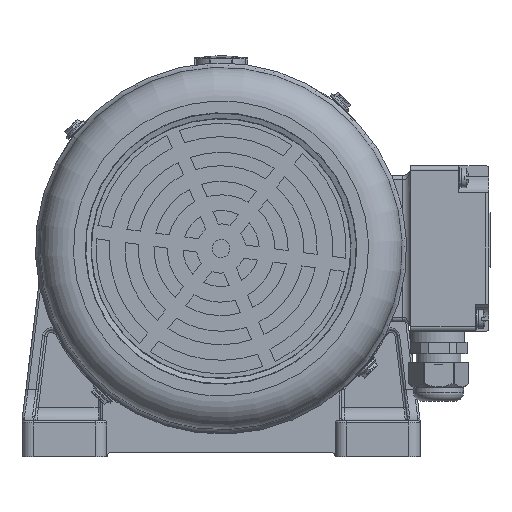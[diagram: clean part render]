
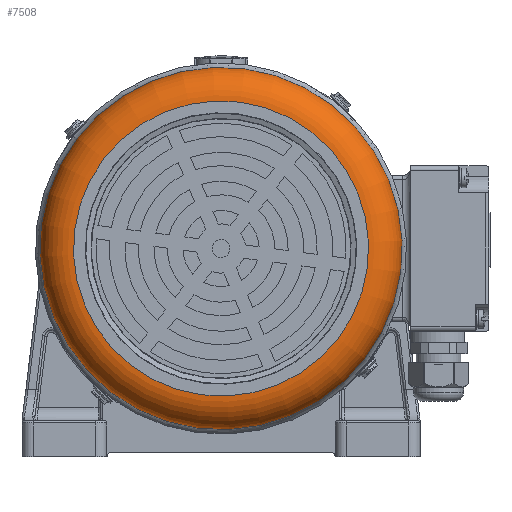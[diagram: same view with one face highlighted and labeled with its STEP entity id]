
A CAD part, left-side view. The second image highlights one B-rep face of the part: STEP entity #7508.
In plain terms, the highlighted toroidal (fillet/blend) face has major radius 66 mm and minor radius 15 mm.
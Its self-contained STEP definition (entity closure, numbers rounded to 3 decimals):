
#3747=TOROIDAL_SURFACE('',#75017,66.,15.);
#4303=FACE_BOUND('',#17834,.T.);
#4304=FACE_BOUND('',#17835,.T.);
#7508=ADVANCED_FACE('',(#4303,#4304),#3747,.T.);
#17834=EDGE_LOOP('',(#32880));
#17835=EDGE_LOOP('',(#32881));
#32880=ORIENTED_EDGE('',*,*,#52977,.F.);
#32881=ORIENTED_EDGE('',*,*,#52978,.T.);
#44045=VERTEX_POINT('',#118168);
#44046=VERTEX_POINT('',#118171);
#52977=EDGE_CURVE('',#44045,#44045,#68496,.T.);
#52978=EDGE_CURVE('',#44046,#44046,#68497,.T.);
#68496=CIRCLE('',#75014,81.);
#68497=CIRCLE('',#75016,66.);
#75014=AXIS2_PLACEMENT_3D('',#118167,#91928,#91929);
#75016=AXIS2_PLACEMENT_3D('',#118170,#91932,#91933);
#75017=AXIS2_PLACEMENT_3D('',#118172,#91934,#91935);
#91928=DIRECTION('',(1.,0.,0.));
#91929=DIRECTION('',(0.,0.609,-0.793));
#91932=DIRECTION('',(1.,0.,0.));
#91933=DIRECTION('',(0.,0.609,-0.793));
#91934=DIRECTION('',(1.,0.,0.));
#91935=DIRECTION('',(0.,0.609,-0.793));
#118167=CARTESIAN_POINT('',(-234.,0.,0.));
#118168=CARTESIAN_POINT('',(-234.,49.31,-64.262));
#118170=CARTESIAN_POINT('',(-249.,0.,0.));
#118171=CARTESIAN_POINT('',(-249.,40.178,-52.361));
#118172=CARTESIAN_POINT('',(-234.,0.,0.));
